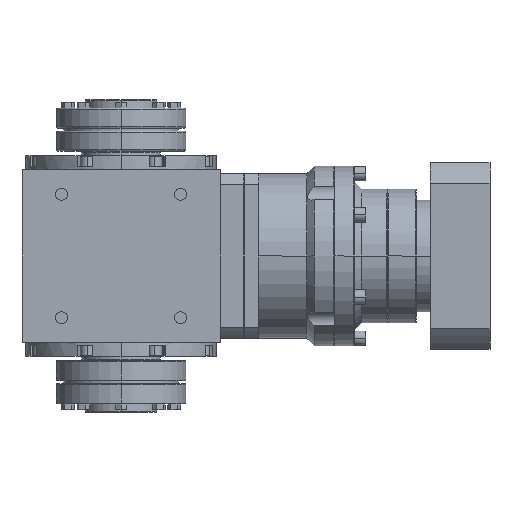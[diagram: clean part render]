
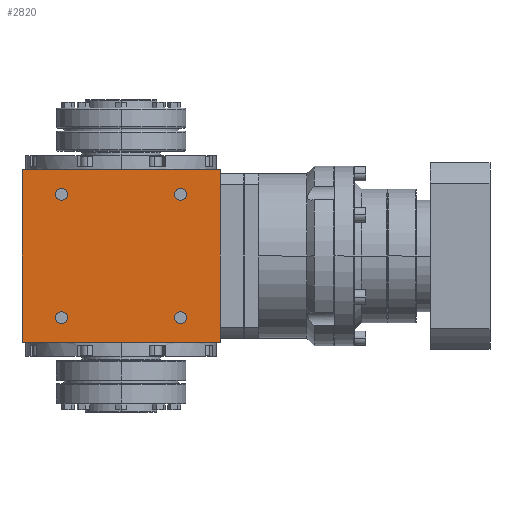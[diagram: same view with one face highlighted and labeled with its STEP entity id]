
A CAD part, left-side view. The second image highlights one B-rep face of the part: STEP entity #2820.
In plain terms, the highlighted planar face has unit normal (-1, 0, 0).
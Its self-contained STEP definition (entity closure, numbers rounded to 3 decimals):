
#630 = VERTEX_POINT ( 'NONE', #14745 ) ;
#791 = CIRCLE ( 'NONE', #20112, 4.2 ) ;
#919 = FACE_BOUND ( 'NONE', #11596, .T. ) ;
#1242 = LINE ( 'NONE', #13742, #13178 ) ;
#1272 = VERTEX_POINT ( 'NONE', #9866 ) ;
#1298 = DIRECTION ( 'NONE',  ( 1., 0., 0. ) ) ;
#1381 = CIRCLE ( 'NONE', #2683, 4.2 ) ;
#1399 = DIRECTION ( 'NONE',  ( 0., -1., 0. ) ) ;
#1499 = EDGE_CURVE ( 'NONE', #1820, #1272, #5952, .T. ) ;
#1759 = DIRECTION ( 'NONE',  ( 0., -1., 0. ) ) ;
#1820 = VERTEX_POINT ( 'NONE', #18955 ) ;
#1944 = AXIS2_PLACEMENT_3D ( 'NONE', #10446, #5832, #2668 ) ;
#2592 = EDGE_CURVE ( 'NONE', #16072, #6613, #14445, .T. ) ;
#2668 = DIRECTION ( 'NONE',  ( 0., -1., 0. ) ) ;
#2683 = AXIS2_PLACEMENT_3D ( 'NONE', #10395, #1298, #16770 ) ;
#2714 = DIRECTION ( 'NONE',  ( 1., 0., 0. ) ) ;
#2820 = ADVANCED_FACE ( 'NONE', ( #919, #16701, #8502, #11669, #13518 ), #10232, .T. ) ;
#3637 = DIRECTION ( 'NONE',  ( 1., 0., 0. ) ) ;
#3874 = CARTESIAN_POINT ( 'NONE',  ( -69., -45.7, 43. ) ) ;
#3887 = DIRECTION ( 'NONE',  ( 0., 0., 1. ) ) ;
#3925 = ORIENTED_EDGE ( 'NONE', *, *, #2592, .T. ) ;
#3957 = CIRCLE ( 'NONE', #5792, 4.2 ) ;
#3968 = EDGE_CURVE ( 'NONE', #6613, #16072, #1381, .T. ) ;
#4266 = ORIENTED_EDGE ( 'NONE', *, *, #4804, .T. ) ;
#4288 = CARTESIAN_POINT ( 'NONE',  ( -69., 41.5, 43. ) ) ;
#4296 = AXIS2_PLACEMENT_3D ( 'NONE', #16748, #2714, #4935 ) ;
#4804 = EDGE_CURVE ( 'NONE', #12649, #1820, #1242, .T. ) ;
#4935 = DIRECTION ( 'NONE',  ( 0., -1., 0. ) ) ;
#5045 = CARTESIAN_POINT ( 'NONE',  ( -69., 69., 60. ) ) ;
#5379 = DIRECTION ( 'NONE',  ( 0., -1., 0. ) ) ;
#5647 = AXIS2_PLACEMENT_3D ( 'NONE', #9068, #12355, #1399 ) ;
#5686 = ORIENTED_EDGE ( 'NONE', *, *, #3968, .T. ) ;
#5792 = AXIS2_PLACEMENT_3D ( 'NONE', #16243, #3637, #8247 ) ;
#5832 = DIRECTION ( 'NONE',  ( 1., 0., 0. ) ) ;
#5896 = CARTESIAN_POINT ( 'NONE',  ( -69., 45.7, 43. ) ) ;
#5952 = LINE ( 'NONE', #9132, #15124 ) ;
#6097 = DIRECTION ( 'NONE',  ( 1., 0., 0. ) ) ;
#6187 = CIRCLE ( 'NONE', #17667, 4.2 ) ;
#6613 = VERTEX_POINT ( 'NONE', #8179 ) ;
#6877 = EDGE_CURVE ( 'NONE', #11211, #630, #791, .T. ) ;
#7599 = ORIENTED_EDGE ( 'NONE', *, *, #6877, .T. ) ;
#7766 = CARTESIAN_POINT ( 'NONE',  ( -69., 69., -60. ) ) ;
#8179 = CARTESIAN_POINT ( 'NONE',  ( -69., 45.7, -43. ) ) ;
#8247 = DIRECTION ( 'NONE',  ( 0., -1., 0. ) ) ;
#8313 = VERTEX_POINT ( 'NONE', #3874 ) ;
#8464 = CARTESIAN_POINT ( 'NONE',  ( -69., -37.3, 43. ) ) ;
#8502 = FACE_BOUND ( 'NONE', #19159, .T. ) ;
#8822 = CARTESIAN_POINT ( 'NONE',  ( -69., -37.3, -43. ) ) ;
#8983 = VERTEX_POINT ( 'NONE', #5045 ) ;
#9068 = CARTESIAN_POINT ( 'NONE',  ( -69., -41.5, 43. ) ) ;
#9132 = CARTESIAN_POINT ( 'NONE',  ( -69., -69., -60. ) ) ;
#9254 = ORIENTED_EDGE ( 'NONE', *, *, #17680, .T. ) ;
#9667 = LINE ( 'NONE', #11409, #16930 ) ;
#9866 = CARTESIAN_POINT ( 'NONE',  ( -69., -69., 60. ) ) ;
#9975 = VERTEX_POINT ( 'NONE', #8464 ) ;
#10113 = ORIENTED_EDGE ( 'NONE', *, *, #12317, .T. ) ;
#10232 = PLANE ( 'NONE',  #17597 ) ;
#10395 = CARTESIAN_POINT ( 'NONE',  ( -69., 41.5, -43. ) ) ;
#10416 = EDGE_LOOP ( 'NONE', ( #9254, #12761 ) ) ;
#10446 = CARTESIAN_POINT ( 'NONE',  ( -69., -41.5, 43. ) ) ;
#10574 = CARTESIAN_POINT ( 'NONE',  ( -69., 69., 60. ) ) ;
#10874 = ORIENTED_EDGE ( 'NONE', *, *, #1499, .T. ) ;
#10954 = EDGE_LOOP ( 'NONE', ( #18022, #7599 ) ) ;
#11211 = VERTEX_POINT ( 'NONE', #5896 ) ;
#11409 = CARTESIAN_POINT ( 'NONE',  ( -69., 69., -60. ) ) ;
#11596 = EDGE_LOOP ( 'NONE', ( #13274, #14164 ) ) ;
#11669 = FACE_BOUND ( 'NONE', #10954, .T. ) ;
#12109 = DIRECTION ( 'NONE',  ( 0., 0., 1. ) ) ;
#12317 = EDGE_CURVE ( 'NONE', #8983, #12649, #9667, .T. ) ;
#12355 = DIRECTION ( 'NONE',  ( 1., 0., 0. ) ) ;
#12363 = DIRECTION ( 'NONE',  ( 0., -1., 0. ) ) ;
#12649 = VERTEX_POINT ( 'NONE', #7766 ) ;
#12761 = ORIENTED_EDGE ( 'NONE', *, *, #19057, .T. ) ;
#13177 = DIRECTION ( 'NONE',  ( 1., 0., 0. ) ) ;
#13178 = VECTOR ( 'NONE', #1759, 1000. ) ;
#13274 = ORIENTED_EDGE ( 'NONE', *, *, #16291, .T. ) ;
#13518 = FACE_OUTER_BOUND ( 'NONE', #18381, .T. ) ;
#13742 = CARTESIAN_POINT ( 'NONE',  ( -69., 69., -60. ) ) ;
#13778 = EDGE_CURVE ( 'NONE', #1272, #8983, #18267, .T. ) ;
#14007 = VECTOR ( 'NONE', #18167, 1000. ) ;
#14160 = EDGE_CURVE ( 'NONE', #9975, #8313, #16327, .T. ) ;
#14164 = ORIENTED_EDGE ( 'NONE', *, *, #14160, .T. ) ;
#14445 = CIRCLE ( 'NONE', #4296, 4.2 ) ;
#14745 = CARTESIAN_POINT ( 'NONE',  ( -69., 37.3, 43. ) ) ;
#14854 = DIRECTION ( 'NONE',  ( -1., 0., 0. ) ) ;
#15028 = EDGE_CURVE ( 'NONE', #630, #11211, #6187, .T. ) ;
#15124 = VECTOR ( 'NONE', #12109, 1000. ) ;
#15152 = CIRCLE ( 'NONE', #5647, 4.2 ) ;
#16072 = VERTEX_POINT ( 'NONE', #17605 ) ;
#16243 = CARTESIAN_POINT ( 'NONE',  ( -69., -41.5, -43. ) ) ;
#16291 = EDGE_CURVE ( 'NONE', #8313, #9975, #15152, .T. ) ;
#16327 = CIRCLE ( 'NONE', #1944, 4.2 ) ;
#16593 = DIRECTION ( 'NONE',  ( 1., 0., 0. ) ) ;
#16701 = FACE_BOUND ( 'NONE', #10416, .T. ) ;
#16748 = CARTESIAN_POINT ( 'NONE',  ( -69., 41.5, -43. ) ) ;
#16770 = DIRECTION ( 'NONE',  ( 0., -1., 0. ) ) ;
#16916 = VERTEX_POINT ( 'NONE', #8822 ) ;
#16930 = VECTOR ( 'NONE', #17761, 1000. ) ;
#17597 = AXIS2_PLACEMENT_3D ( 'NONE', #19778, #14854, #3887 ) ;
#17605 = CARTESIAN_POINT ( 'NONE',  ( -69., 37.3, -43. ) ) ;
#17667 = AXIS2_PLACEMENT_3D ( 'NONE', #4288, #16593, #18233 ) ;
#17680 = EDGE_CURVE ( 'NONE', #19731, #16916, #3957, .T. ) ;
#17761 = DIRECTION ( 'NONE',  ( 0., 0., -1. ) ) ;
#17952 = AXIS2_PLACEMENT_3D ( 'NONE', #17998, #13177, #5379 ) ;
#17998 = CARTESIAN_POINT ( 'NONE',  ( -69., -41.5, -43. ) ) ;
#18022 = ORIENTED_EDGE ( 'NONE', *, *, #15028, .T. ) ;
#18167 = DIRECTION ( 'NONE',  ( 0., 1., 0. ) ) ;
#18233 = DIRECTION ( 'NONE',  ( 0., -1., 0. ) ) ;
#18267 = LINE ( 'NONE', #10574, #14007 ) ;
#18381 = EDGE_LOOP ( 'NONE', ( #10874, #20148, #10113, #4266 ) ) ;
#18955 = CARTESIAN_POINT ( 'NONE',  ( -69., -69., -60. ) ) ;
#18995 = CARTESIAN_POINT ( 'NONE',  ( -69., -45.7, -43. ) ) ;
#19057 = EDGE_CURVE ( 'NONE', #16916, #19731, #19592, .T. ) ;
#19159 = EDGE_LOOP ( 'NONE', ( #3925, #5686 ) ) ;
#19592 = CIRCLE ( 'NONE', #17952, 4.2 ) ;
#19731 = VERTEX_POINT ( 'NONE', #18995 ) ;
#19778 = CARTESIAN_POINT ( 'NONE',  ( -69., 69., -60. ) ) ;
#20112 = AXIS2_PLACEMENT_3D ( 'NONE', #20159, #6097, #12363 ) ;
#20148 = ORIENTED_EDGE ( 'NONE', *, *, #13778, .T. ) ;
#20159 = CARTESIAN_POINT ( 'NONE',  ( -69., 41.5, 43. ) ) ;
